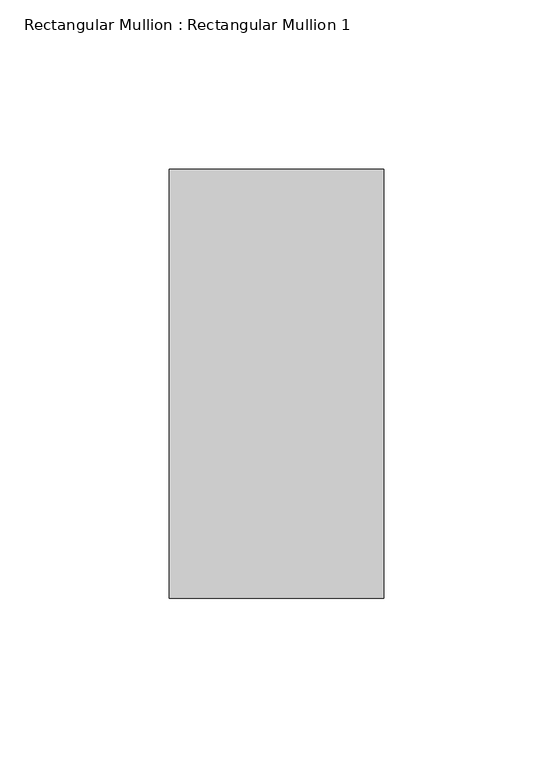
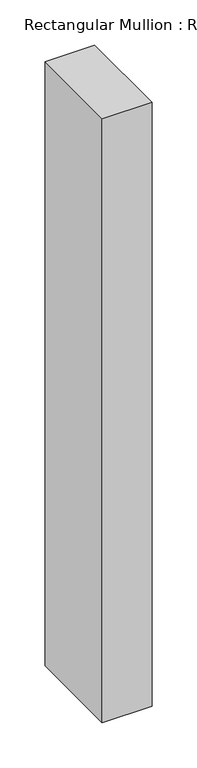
"""IFC4 building model written with IfcOpenShell, lengths in millimetres: member geometry, Rectangular Mullion : Rectangular Mullion 1."""

from ifc_helpers import new_model, si_unit, frame, origin, place, context, project, spatial, polyline, outline, extrude, source, transform, mapped, element, save


def rectangular_mullion_rectangular_mullion_1_91ce8450(model_context):
    return source(origin(), model_context, "Body", "SweptSolid", [
        extrude(outline(polyline([(31.75, 63.5), (31.75, -63.5), (-31.75, -63.5), (-31.75, 63.5), (31.75, 63.5)])), frame((0.0, 0.0, -817.1391834), z_axis=(0.0, 0.0, 1.0), x_axis=(1.0, 0.0, 0.0)), (0.0, 0.0, 1.0), 817.1391834),
    ])


if __name__ == "__main__":
    model = new_model("IFC4")
    model_context = context("Model", 3, world=origin())
    ifc_project = project(units=[si_unit("LENGTHUNIT", "METRE", prefix="MILLI")], contexts=[model_context])
    site = spatial("IfcSite", under=ifc_project)
    building = spatial("IfcBuilding", under=site)
    placement = place(None, origin())
    rectangular_mullion_rectangular_mullion_1_shape = rectangular_mullion_rectangular_mullion_1_91ce8450(model_context)
    element("IfcMember", 1, ObjectType="Rectangular Mullion : Rectangular Mullion 1", at=placement, inside=building, context=model_context, shape_type="MappedRepresentation", body=[
        mapped(rectangular_mullion_rectangular_mullion_1_shape, transform((0.0, 0.0, 0.0), x_axis=(1.0, 0.0, 0.0), y_axis=(0.0, 1.0, 0.0), z_axis=(0.0, 0.0, 1.0))),
    ])
    save(model, "model.ifc")
